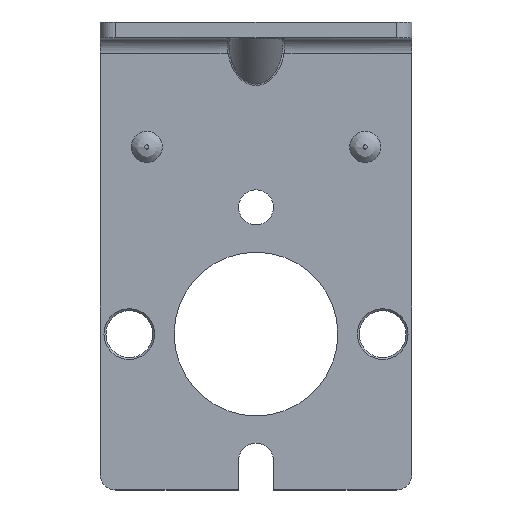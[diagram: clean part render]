
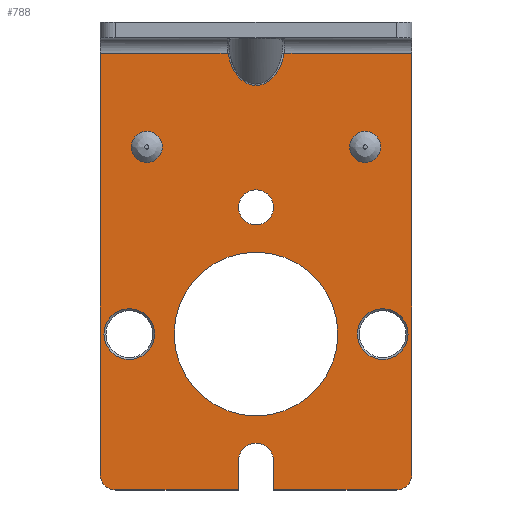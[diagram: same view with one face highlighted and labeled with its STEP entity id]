
A CAD part, top view. The second image highlights one B-rep face of the part: STEP entity #788.
In plain terms, the highlighted planar face has unit normal (0, 0, 1).
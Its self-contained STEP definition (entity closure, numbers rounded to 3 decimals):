
#139=CARTESIAN_POINT('',(23.584,-4.,2.0));
#140=VERTEX_POINT('',#139);
#159=CARTESIAN_POINT('',(16.416,-4.,2.0));
#160=VERTEX_POINT('',#159);
#168=CARTESIAN_POINT('',(20.0,-2.922,2.0));
#169=DIRECTION('',(0.0,0.0,1.0));
#170=DIRECTION('',(0.0,-1.0,0.0));
#171=AXIS2_PLACEMENT_3D('',#168,#169,#170);
#172=ELLIPSE('',#171,5.182,3.664);
#173=EDGE_CURVE('',#160,#140,#172,.T.);
#606=CARTESIAN_POINT('',(40.0,-4.0,2.0));
#607=VERTEX_POINT('',#606);
#608=CARTESIAN_POINT('',(40.0,-4.0,2.0));
#609=DIRECTION('',(-1.0,0.0,0.0));
#610=VECTOR('',#609,16.416);
#611=LINE('',#608,#610);
#612=EDGE_CURVE('',#607,#140,#611,.T.);
#632=CARTESIAN_POINT('',(20.0,-31.201,2.0));
#633=DIRECTION('',(0.0,0.0,1.0));
#634=DIRECTION('',(1.0,0.0,0.0));
#635=AXIS2_PLACEMENT_3D('',#632,#633,#634);
#636=PLANE('',#635);
#637=ORIENTED_EDGE('',*,*,#173,.F.);
#638=CARTESIAN_POINT('',(0.0,-4.0,2.0));
#639=VERTEX_POINT('',#638);
#640=CARTESIAN_POINT('',(16.416,-4.,2.0));
#641=DIRECTION('',(-1.0,0.0,0.0));
#642=VECTOR('',#641,16.416);
#643=LINE('',#640,#642);
#644=EDGE_CURVE('',#160,#639,#643,.T.);
#645=ORIENTED_EDGE('',*,*,#644,.T.);
#646=CARTESIAN_POINT('',(0.0,-58.0,2.0));
#647=VERTEX_POINT('',#646);
#648=CARTESIAN_POINT('',(0.0,-58.0,2.0));
#649=DIRECTION('',(0.0,1.0,0.0));
#650=VECTOR('',#649,54.0);
#651=LINE('',#648,#650);
#652=EDGE_CURVE('',#647,#639,#651,.T.);
#653=ORIENTED_EDGE('',*,*,#652,.F.);
#654=CARTESIAN_POINT('',(2.,-60.0,2.0));
#655=VERTEX_POINT('',#654);
#656=CARTESIAN_POINT('',(2.,-58.0,2.0));
#657=DIRECTION('',(0.0,0.0,-1.0));
#658=DIRECTION('',(-0.707,-0.707,0.0));
#659=AXIS2_PLACEMENT_3D('',#656,#657,#658);
#660=CIRCLE('',#659,2.0);
#661=EDGE_CURVE('',#655,#647,#660,.T.);
#662=ORIENTED_EDGE('',*,*,#661,.F.);
#663=CARTESIAN_POINT('',(17.75,-60.0,2.0));
#664=VERTEX_POINT('',#663);
#665=CARTESIAN_POINT('',(17.75,-60.0,2.0));
#666=DIRECTION('',(-1.0,0.0,0.0));
#667=VECTOR('',#666,15.75);
#668=LINE('',#665,#667);
#669=EDGE_CURVE('',#664,#655,#668,.T.);
#670=ORIENTED_EDGE('',*,*,#669,.F.);
#671=CARTESIAN_POINT('',(17.75,-56.25,2.0));
#672=VERTEX_POINT('',#671);
#673=CARTESIAN_POINT('',(17.75,-56.25,2.0));
#674=DIRECTION('',(0.0,-1.0,0.0));
#675=VECTOR('',#674,3.75);
#676=LINE('',#673,#675);
#677=EDGE_CURVE('',#672,#664,#676,.T.);
#678=ORIENTED_EDGE('',*,*,#677,.F.);
#679=CARTESIAN_POINT('',(22.25,-56.25,2.0));
#680=VERTEX_POINT('',#679);
#681=CARTESIAN_POINT('',(20.,-56.25,2.0));
#682=DIRECTION('',(0.0,0.0,1.0));
#683=DIRECTION('',(1.0,0.0,0.0));
#684=AXIS2_PLACEMENT_3D('',#681,#682,#683);
#685=CIRCLE('',#684,2.25);
#686=EDGE_CURVE('',#680,#672,#685,.T.);
#687=ORIENTED_EDGE('',*,*,#686,.F.);
#688=CARTESIAN_POINT('',(22.25,-60.0,2.0));
#689=VERTEX_POINT('',#688);
#690=CARTESIAN_POINT('',(22.25,-60.0,2.0));
#691=DIRECTION('',(0.0,1.0,0.0));
#692=VECTOR('',#691,3.75);
#693=LINE('',#690,#692);
#694=EDGE_CURVE('',#689,#680,#693,.T.);
#695=ORIENTED_EDGE('',*,*,#694,.F.);
#696=CARTESIAN_POINT('',(38.0,-60.0,2.0));
#697=VERTEX_POINT('',#696);
#698=CARTESIAN_POINT('',(38.0,-60.0,2.0));
#699=DIRECTION('',(-1.0,0.0,0.0));
#700=VECTOR('',#699,15.75);
#701=LINE('',#698,#700);
#702=EDGE_CURVE('',#697,#689,#701,.T.);
#703=ORIENTED_EDGE('',*,*,#702,.F.);
#704=CARTESIAN_POINT('',(40.0,-58.0,2.0));
#705=VERTEX_POINT('',#704);
#706=CARTESIAN_POINT('',(38.0,-58.0,2.0));
#707=DIRECTION('',(0.0,0.0,-1.0));
#708=DIRECTION('',(0.707,-0.707,0.0));
#709=AXIS2_PLACEMENT_3D('',#706,#707,#708);
#710=CIRCLE('',#709,2.);
#711=EDGE_CURVE('',#705,#697,#710,.T.);
#712=ORIENTED_EDGE('',*,*,#711,.F.);
#713=CARTESIAN_POINT('',(40.0,-4.0,2.0));
#714=DIRECTION('',(0.0,-1.0,0.0));
#715=VECTOR('',#714,54.0);
#716=LINE('',#713,#715);
#717=EDGE_CURVE('',#607,#705,#716,.T.);
#718=ORIENTED_EDGE('',*,*,#717,.F.);
#719=ORIENTED_EDGE('',*,*,#612,.T.);
#720=EDGE_LOOP('',(#637,#645,#653,#662,#670,#678,#687,#695,#703,#712,#718,#719));
#721=FACE_OUTER_BOUND('',#720,.T.);
#722=CARTESIAN_POINT('',(7.,-40.0,2.0));
#723=VERTEX_POINT('',#722);
#724=CARTESIAN_POINT('',(3.75,-40.0,2.0));
#725=DIRECTION('',(0.0,0.0,1.0));
#726=DIRECTION('',(-1.0,0.0,0.0));
#727=AXIS2_PLACEMENT_3D('',#724,#725,#726);
#728=CIRCLE('',#727,3.25);
#729=EDGE_CURVE('',#723,#723,#728,.T.);
#730=ORIENTED_EDGE('',*,*,#729,.F.);
#731=EDGE_LOOP('',(#730));
#732=FACE_BOUND('',#731,.T.);
#733=CARTESIAN_POINT('',(36.,-16.,2.0));
#734=VERTEX_POINT('',#733);
#735=CARTESIAN_POINT('',(34.0,-16.,2.0));
#736=DIRECTION('',(0.0,0.0,-1.0));
#737=DIRECTION('',(-1.0,0.0,0.0));
#738=AXIS2_PLACEMENT_3D('',#735,#736,#737);
#739=CIRCLE('',#738,2.0);
#740=EDGE_CURVE('',#734,#734,#739,.T.);
#741=ORIENTED_EDGE('',*,*,#740,.T.);
#742=EDGE_LOOP('',(#741));
#743=FACE_BOUND('',#742,.T.);
#744=CARTESIAN_POINT('',(8.,-16.,2.0));
#745=VERTEX_POINT('',#744);
#746=CARTESIAN_POINT('',(6.,-16.,2.0));
#747=DIRECTION('',(0.0,0.0,-1.0));
#748=DIRECTION('',(-1.0,0.0,0.0));
#749=AXIS2_PLACEMENT_3D('',#746,#747,#748);
#750=CIRCLE('',#749,2.0);
#751=EDGE_CURVE('',#745,#745,#750,.T.);
#752=ORIENTED_EDGE('',*,*,#751,.T.);
#753=EDGE_LOOP('',(#752));
#754=FACE_BOUND('',#753,.T.);
#755=CARTESIAN_POINT('',(22.25,-23.75,2.0));
#756=VERTEX_POINT('',#755);
#757=CARTESIAN_POINT('',(20.0,-23.75,2.0));
#758=DIRECTION('',(0.0,0.0,-1.0));
#759=DIRECTION('',(-1.0,0.0,0.0));
#760=AXIS2_PLACEMENT_3D('',#757,#758,#759);
#761=CIRCLE('',#760,2.25);
#762=EDGE_CURVE('',#756,#756,#761,.T.);
#763=ORIENTED_EDGE('',*,*,#762,.T.);
#764=EDGE_LOOP('',(#763));
#765=FACE_BOUND('',#764,.T.);
#766=CARTESIAN_POINT('',(30.5,-40.0,2.0));
#767=VERTEX_POINT('',#766);
#768=CARTESIAN_POINT('',(20.0,-40.0,2.0));
#769=DIRECTION('',(0.0,0.0,-1.0));
#770=DIRECTION('',(-1.0,0.0,0.0));
#771=AXIS2_PLACEMENT_3D('',#768,#769,#770);
#772=CIRCLE('',#771,10.5);
#773=EDGE_CURVE('',#767,#767,#772,.T.);
#774=ORIENTED_EDGE('',*,*,#773,.T.);
#775=EDGE_LOOP('',(#774));
#776=FACE_BOUND('',#775,.T.);
#777=CARTESIAN_POINT('',(39.5,-40.0,2.0));
#778=VERTEX_POINT('',#777);
#779=CARTESIAN_POINT('',(36.25,-40.0,2.0));
#780=DIRECTION('',(0.0,0.0,1.0));
#781=DIRECTION('',(-1.0,0.0,0.0));
#782=AXIS2_PLACEMENT_3D('',#779,#780,#781);
#783=CIRCLE('',#782,3.25);
#784=EDGE_CURVE('',#778,#778,#783,.T.);
#785=ORIENTED_EDGE('',*,*,#784,.F.);
#786=EDGE_LOOP('',(#785));
#787=FACE_BOUND('',#786,.T.);
#788=ADVANCED_FACE('',(#721,#732,#743,#754,#765,#776,#787),#636,.T.);
